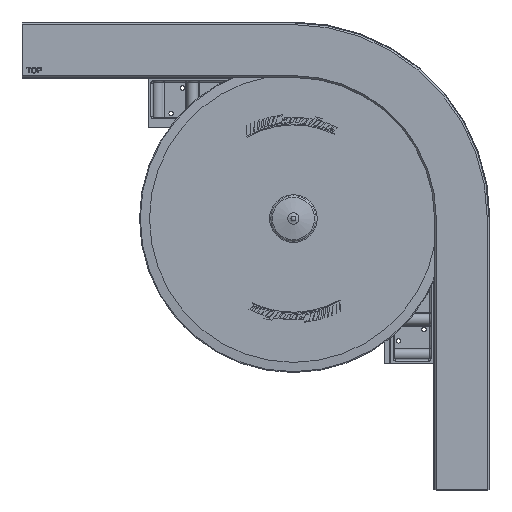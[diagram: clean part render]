
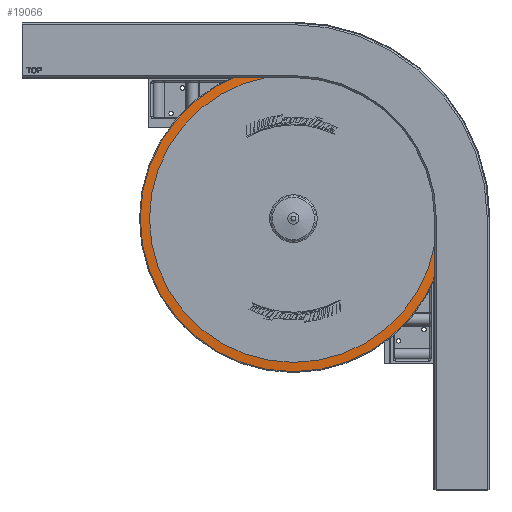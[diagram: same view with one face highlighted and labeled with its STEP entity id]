
A CAD part, top view. The second image highlights one B-rep face of the part: STEP entity #19066.
In plain terms, the highlighted conical face has half-angle 85 degrees and reference radius 174.087 mm.
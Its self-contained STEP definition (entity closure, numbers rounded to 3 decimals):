
#15144=CARTESIAN_POINT('',(-29.272,-200.669,0.0));
#15145=VERTEX_POINT('',#15144);
#15146=CARTESIAN_POINT('',(-29.272,-37.099,0.0));
#15147=DIRECTION('',(1.0,0.0,0.0));
#15148=DIRECTION('',(0.0,-1.0,0.0));
#15149=AXIS2_PLACEMENT_3D('',#15146,#15147,#15148);
#15150=CIRCLE('',#15149,163.57);
#15151=EDGE_CURVE('',#15145,#15145,#15150,.T.);
#19023=CARTESIAN_POINT('',(-30.192,-211.186,0.0));
#19024=VERTEX_POINT('',#19023);
#19025=CARTESIAN_POINT('',(-30.192,-37.099,0.0));
#19026=DIRECTION('',(1.0,0.0,0.0));
#19027=DIRECTION('',(0.0,1.0,0.0));
#19028=AXIS2_PLACEMENT_3D('',#19025,#19026,#19027);
#19029=CIRCLE('',#19028,174.087);
#19030=EDGE_CURVE('',#19024,#19024,#19029,.T.);
#19055=CARTESIAN_POINT('',(-30.192,-37.099,0.0));
#19056=DIRECTION('',(-1.0,0.0,0.0));
#19057=DIRECTION('',(0.0,-1.0,0.0));
#19058=AXIS2_PLACEMENT_3D('',#19055,#19056,#19057);
#19059=CONICAL_SURFACE('',#19058,174.087,85.);
#19060=ORIENTED_EDGE('',*,*,#15151,.F.);
#19061=EDGE_LOOP('',(#19060));
#19062=FACE_OUTER_BOUND('',#19061,.T.);
#19063=ORIENTED_EDGE('',*,*,#19030,.T.);
#19064=EDGE_LOOP('',(#19063));
#19065=FACE_BOUND('',#19064,.T.);
#19066=ADVANCED_FACE('',(#19062,#19065),#19059,.T.);
